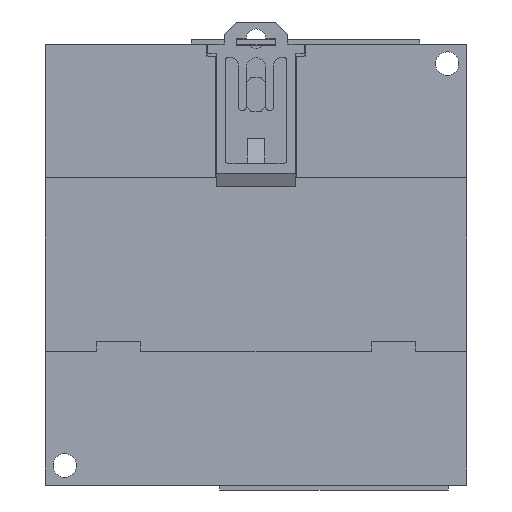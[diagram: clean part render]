
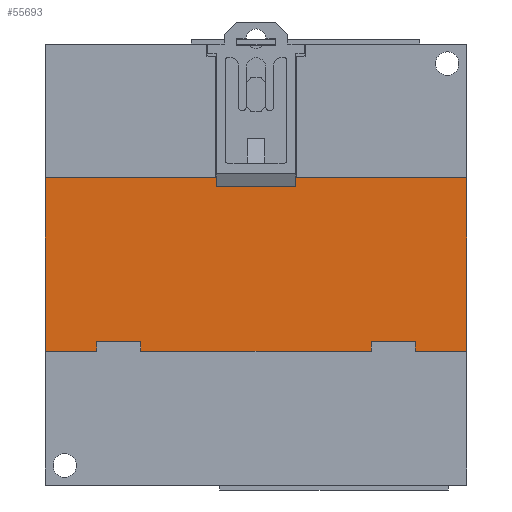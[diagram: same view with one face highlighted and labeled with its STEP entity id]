
A CAD part, front view. The second image highlights one B-rep face of the part: STEP entity #55693.
In plain terms, the highlighted planar face has unit normal (0, -1, 0).
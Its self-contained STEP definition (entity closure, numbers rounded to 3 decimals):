
#1507 = DIRECTION ( 'NONE',  ( 1., 0., 0. ) ) ;
#1508 = VECTOR ( 'NONE', #1507, 1000. ) ;
#1512 = CARTESIAN_POINT ( 'NONE',  ( -29.654, -49.038, 15.95 ) ) ;
#1513 = LINE ( 'NONE', #1512, #1508 ) ;
#1615 = CARTESIAN_POINT ( 'NONE',  ( 56.346, -49.038, 15.95 ) ) ;
#1632 = PLANE ( 'NONE',  #1650 ) ;
#1634 = FACE_OUTER_BOUND ( 'NONE', #55711, .T. ) ;
#1635 = CARTESIAN_POINT ( 'NONE',  ( -29.654, -49.038, -19.45 ) ) ;
#1636 = CARTESIAN_POINT ( 'NONE',  ( 56.346, -49.038, -19.45 ) ) ;
#1650 = AXIS2_PLACEMENT_3D ( 'NONE', #1678, #1677, #1676 ) ;
#1666 = DIRECTION ( 'NONE',  ( 1., 0., 0. ) ) ;
#1667 = VECTOR ( 'NONE', #1666, 1000. ) ;
#1668 = CARTESIAN_POINT ( 'NONE',  ( -29.654, -49.038, -19.45 ) ) ;
#1669 = LINE ( 'NONE', #1668, #1667 ) ;
#1671 = DIRECTION ( 'NONE',  ( 0., 0., 1. ) ) ;
#1672 = VECTOR ( 'NONE', #1671, 1000. ) ;
#1673 = CARTESIAN_POINT ( 'NONE',  ( -29.654, -49.038, 43.25 ) ) ;
#1674 = LINE ( 'NONE', #1673, #1672 ) ;
#1676 = DIRECTION ( 'NONE',  ( 0., 0., 1. ) ) ;
#1677 = DIRECTION ( 'NONE',  ( 0., 1., 0. ) ) ;
#1678 = CARTESIAN_POINT ( 'NONE',  ( -29.654, -49.038, 15.95 ) ) ;
#1704 = CARTESIAN_POINT ( 'NONE',  ( -29.654, -49.038, 15.95 ) ) ;
#1722 = DIRECTION ( 'NONE',  ( 0., 0., 1. ) ) ;
#1723 = VECTOR ( 'NONE', #1722, 1000. ) ;
#1724 = CARTESIAN_POINT ( 'NONE',  ( 56.346, -49.038, 15.95 ) ) ;
#1725 = LINE ( 'NONE', #1724, #1723 ) ;
#55642 = EDGE_CURVE ( 'NONE', #55712, #55692, #1513, .T. ) ;
#55668 = ORIENTED_EDGE ( 'NONE', *, *, #55702, .T. ) ;
#55690 = ORIENTED_EDGE ( 'NONE', *, *, #55698, .F. ) ;
#55691 = VERTEX_POINT ( 'NONE', #1636 ) ;
#55692 = VERTEX_POINT ( 'NONE', #1615 ) ;
#55693 = ADVANCED_FACE ( 'NONE', ( #1634 ), #1632, .F. ) ;
#55694 = VERTEX_POINT ( 'NONE', #1635 ) ;
#55696 = ORIENTED_EDGE ( 'NONE', *, *, #55700, .T. ) ;
#55697 = ORIENTED_EDGE ( 'NONE', *, *, #55642, .F. ) ;
#55698 = EDGE_CURVE ( 'NONE', #55694, #55712, #1674, .T. ) ;
#55700 = EDGE_CURVE ( 'NONE', #55694, #55691, #1669, .T. ) ;
#55702 = EDGE_CURVE ( 'NONE', #55691, #55692, #1725, .T. ) ;
#55711 = EDGE_LOOP ( 'NONE', ( #55668, #55697, #55690, #55696 ) ) ;
#55712 = VERTEX_POINT ( 'NONE', #1704 ) ;
